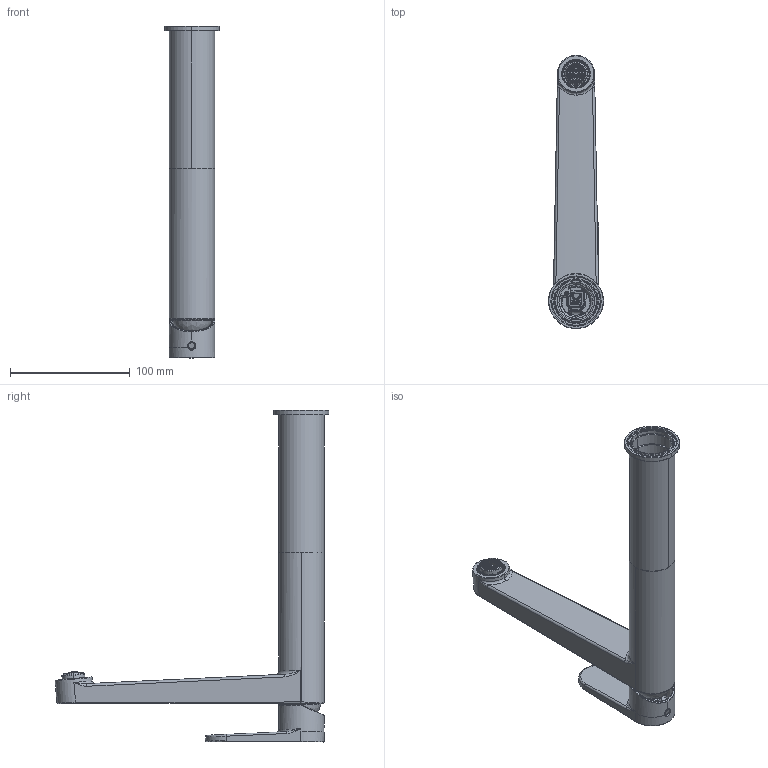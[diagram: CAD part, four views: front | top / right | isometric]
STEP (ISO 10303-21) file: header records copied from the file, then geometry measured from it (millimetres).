
FILE_DESCRIPTION((''),'2;1');
FILE_NAME('5-02514-000_ASM','2017-02-07T',('miluro01'),(''),'PRO/ENGINEER BY PARAMETRIC TECHNOLOGY CORPORATION, 2013410','PRO/ENGINEER BY PARAMETRIC TECHNOLOGY CORPORATION, 2013410','');
FILE_SCHEMA(('CONFIG_CONTROL_DESIGN'));
Length unit declared in the file: millimetre
Products named in the file (11): OF21110084; OF22120004; OF23820010; A5226681; 438373_238927_; 564066; OF25400051_CARTUCHO_KEROX__ASM; OF22820016; OF25400054_ASM; A5254072; 5-02514-000_ASM
Assembly tree (10 placements, depth 3):
  5-02514-000_ASM
    OF21110084
    OF22120004
    OF23820010
    OF25400051_CARTUCHO_KEROX__ASM
      A5226681
      438373_238927_
      564066
    OF25400054_ASM
      OF22820016
    A5254072
Bounding box: 46 x 228.4 x 276.91 mm (x, y, z)
Volume: 186579.4 mm3; surface area: 113206.9 mm2
Topology: 8 solids, 8 shells, 5463 faces, 15811 edges, 10458 vertices
Faces by surface type: plane 3932, torus 643, cylinder 404, bspline 254, cone 186, extrusion 28, sphere 16
Entity records: 225665 total; most frequent: CARTESIAN_POINT 94323, ORIENTED_EDGE 31578, DIRECTION 20633, EDGE_CURVE 15789, VERTEX_POINT 10458, B_SPLINE_CURVE_WITH_KNOTS 8036, AXIS2_PLACEMENT_3D 7618, EDGE_LOOP 6565
